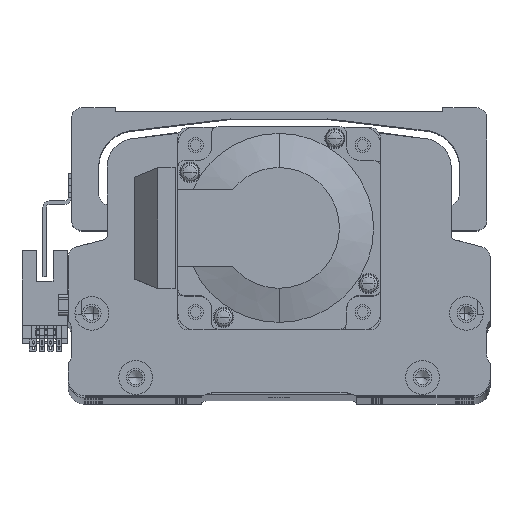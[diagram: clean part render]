
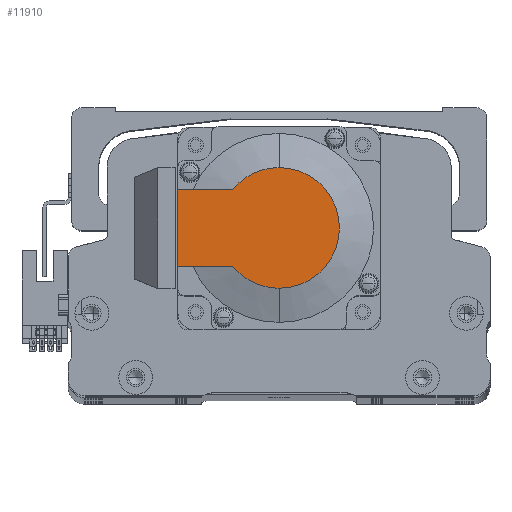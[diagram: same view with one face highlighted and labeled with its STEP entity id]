
A CAD part, top view. The second image highlights one B-rep face of the part: STEP entity #11910.
In plain terms, the highlighted planar face has unit normal (0, 0, 1) as drawn and (-1, 0, 0) by its records, which use the part's own axes.
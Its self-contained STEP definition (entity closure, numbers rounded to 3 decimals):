
#447 = ORIENTED_EDGE ( 'NONE', *, *, #22151, .T. ) ;
#889 = LINE ( 'NONE', #27933, #12998 ) ;
#3379 = DIRECTION ( 'NONE',  ( -1., 0., 0. ) ) ;
#4167 = ORIENTED_EDGE ( 'NONE', *, *, #19767, .F. ) ;
#6002 = LINE ( 'NONE', #44077, #51298 ) ;
#7708 = DIRECTION ( 'NONE',  ( -1., 0., 0. ) ) ;
#8979 = FACE_OUTER_BOUND ( 'NONE', #39087, .T. ) ;
#9912 = EDGE_CURVE ( 'NONE', #17828, #23545, #54489, .T. ) ;
#11780 = CIRCLE ( 'NONE', #19311, 17.881 ) ;
#11910 = ADVANCED_FACE ( 'NONE', ( #8979 ), #39582, .T. ) ;
#11921 = AXIS2_PLACEMENT_3D ( 'NONE', #48783, #21700, #53285 ) ;
#12059 = ORIENTED_EDGE ( 'NONE', *, *, #30720, .F. ) ;
#12998 = VECTOR ( 'NONE', #32304, 1000. ) ;
#16150 = ORIENTED_EDGE ( 'NONE', *, *, #55142, .T. ) ;
#16824 = DIRECTION ( 'NONE',  ( 0., -1., 0. ) ) ;
#16996 = CARTESIAN_POINT ( 'NONE',  ( -118.5, 0., -17.881 ) ) ;
#17828 = VERTEX_POINT ( 'NONE', #53630 ) ;
#19311 = AXIS2_PLACEMENT_3D ( 'NONE', #30575, #3379, #35093 ) ;
#19767 = EDGE_CURVE ( 'NONE', #48853, #45915, #6002, .T. ) ;
#21309 = LINE ( 'NONE', #39457, #57310 ) ;
#21700 = DIRECTION ( 'NONE',  ( -1., 0., 0. ) ) ;
#22151 = EDGE_CURVE ( 'NONE', #42885, #17828, #54176, .T. ) ;
#23193 = AXIS2_PLACEMENT_3D ( 'NONE', #52470, #25397, #56948 ) ;
#23545 = VERTEX_POINT ( 'NONE', #50240 ) ;
#25397 = DIRECTION ( 'NONE',  ( -1., 0., 0. ) ) ;
#27933 = CARTESIAN_POINT ( 'NONE',  ( -118.5, -8.941, -11.45 ) ) ;
#30461 = CARTESIAN_POINT ( 'NONE',  ( -118.5, 13.735, -11.45 ) ) ;
#30575 = CARTESIAN_POINT ( 'NONE',  ( -118.5, 0., 0. ) ) ;
#30626 = DIRECTION ( 'NONE',  ( 0., 0., 1. ) ) ;
#30720 = EDGE_CURVE ( 'NONE', #45915, #23545, #21309, .T. ) ;
#30864 = ORIENTED_EDGE ( 'NONE', *, *, #9912, .T. ) ;
#32304 = DIRECTION ( 'NONE',  ( 0., -1., 0. ) ) ;
#34826 = CARTESIAN_POINT ( 'NONE',  ( -118.5, 0., 0. ) ) ;
#35093 = DIRECTION ( 'NONE',  ( 0., 0., -1. ) ) ;
#37081 = ORIENTED_EDGE ( 'NONE', *, *, #41483, .T. ) ;
#37867 = CARTESIAN_POINT ( 'NONE',  ( -118.5, 30., 11.45 ) ) ;
#39087 = EDGE_LOOP ( 'NONE', ( #37081, #16150, #447, #30864, #12059, #4167 ) ) ;
#39426 = DIRECTION ( 'NONE',  ( 0., 0., -1. ) ) ;
#39457 = CARTESIAN_POINT ( 'NONE',  ( -118.5, 0., 11.45 ) ) ;
#39582 = PLANE ( 'NONE',  #11921 ) ;
#41483 = EDGE_CURVE ( 'NONE', #48853, #49205, #889, .T. ) ;
#42885 = VERTEX_POINT ( 'NONE', #16996 ) ;
#44077 = CARTESIAN_POINT ( 'NONE',  ( -118.5, 30., 25. ) ) ;
#45915 = VERTEX_POINT ( 'NONE', #37867 ) ;
#48783 = CARTESIAN_POINT ( 'NONE',  ( -118.5, -8.941, 0. ) ) ;
#48853 = VERTEX_POINT ( 'NONE', #50039 ) ;
#49205 = VERTEX_POINT ( 'NONE', #30461 ) ;
#50039 = CARTESIAN_POINT ( 'NONE',  ( -118.5, 30., -11.45 ) ) ;
#50240 = CARTESIAN_POINT ( 'NONE',  ( -118.5, 13.735, 11.45 ) ) ;
#51298 = VECTOR ( 'NONE', #30626, 1000. ) ;
#51329 = AXIS2_PLACEMENT_3D ( 'NONE', #34826, #7708, #39426 ) ;
#52470 = CARTESIAN_POINT ( 'NONE',  ( -118.5, 0., 0. ) ) ;
#53285 = DIRECTION ( 'NONE',  ( 0., 0., 1. ) ) ;
#53630 = CARTESIAN_POINT ( 'NONE',  ( -118.5, 0., 17.881 ) ) ;
#54176 = CIRCLE ( 'NONE', #51329, 17.881 ) ;
#54489 = CIRCLE ( 'NONE', #23193, 17.881 ) ;
#55142 = EDGE_CURVE ( 'NONE', #49205, #42885, #11780, .T. ) ;
#56948 = DIRECTION ( 'NONE',  ( 0., 0., -1. ) ) ;
#57310 = VECTOR ( 'NONE', #16824, 1000. ) ;
